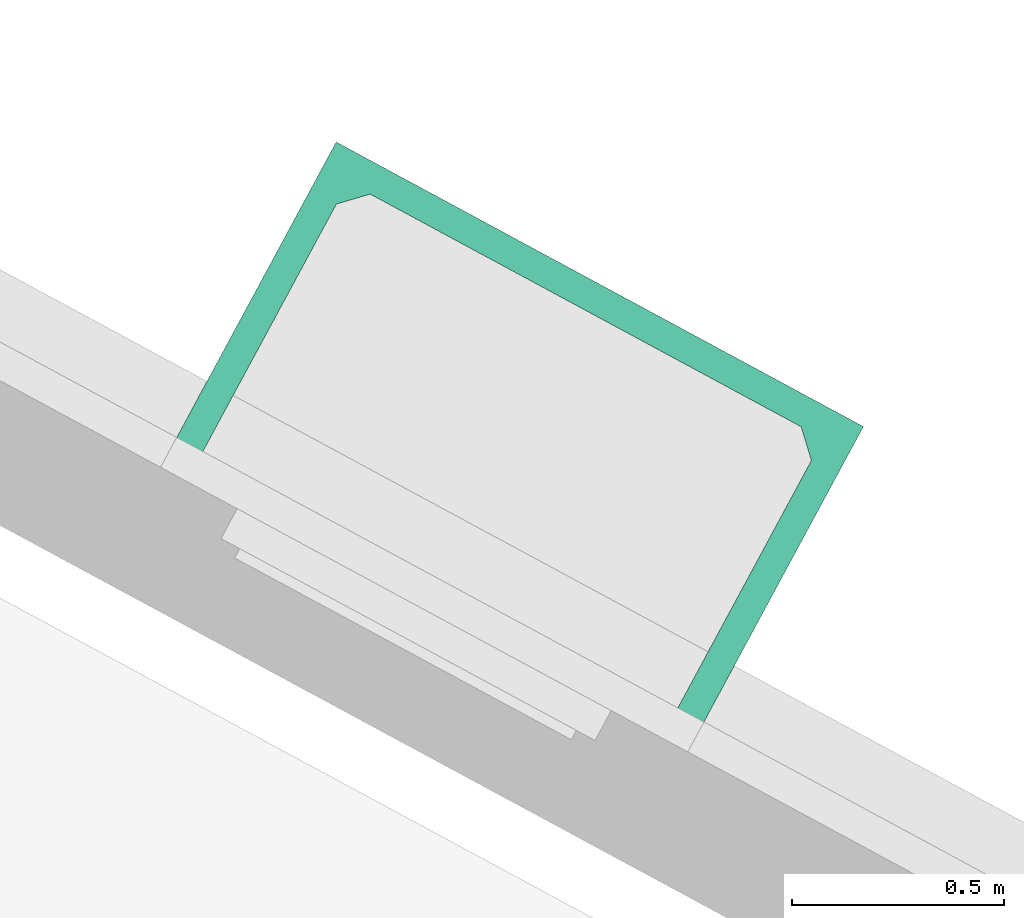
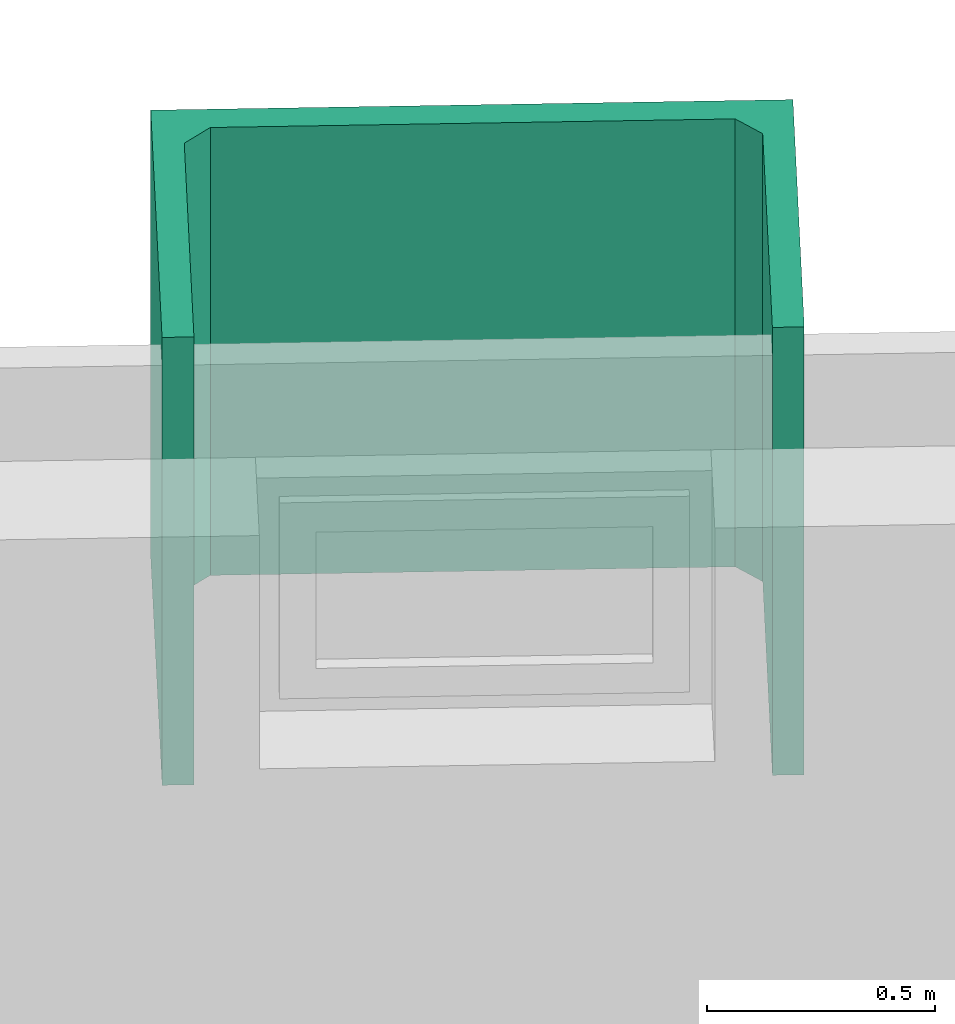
# One storey, part 6 of 7: 1 distribution element.
"""IFC2X3 building model written with IfcOpenShell, lengths in metres."""

import ifcopenshell
import ifcopenshell.guid

model = None  # the IFC model being written
_history = None  # IfcOwnerHistory: only IFC2X3 demands one
_inside = {}  # id of a spatial element -> (the spatial element, [elements in it])
_under = {}  # id of a project, library or spatial element -> (it, [spatial elements below it])
_declared = {}  # id of a project -> (the project, [libraries it declares])
_typed = {}  # id of a type object -> (the type object, [elements of that type])
_made_of = {}  # id of a material, layer set ... -> (it, [elements and type objects made of it])


def new_model(schema):
    """Start an empty IFC model of exactly this schema.

    Asked for "IFC4X3", IfcOpenShell would pick the latest addendum, in which some entities
    have other attributes; the version numbers below select the first issue.
    IFC2X3 requires an IfcOwnerHistory on every rooted entity: one is made here for all.
    """
    global model, _history
    if schema == "IFC4X3":
        model = ifcopenshell.file(schema_version=(4, 3, 0, 0))
    else:
        model = ifcopenshell.file(schema=schema)
    _inside.clear()
    _under.clear()
    _declared.clear()
    _typed.clear()
    _made_of.clear()
    _history = None
    if model.schema == "IFC2X3":
        org = make("IfcOrganization", Name="unknown")
        user = make(
            "IfcPersonAndOrganization",
            ThePerson=make("IfcPerson", FamilyName="unknown"),
            TheOrganization=org,
        )
        app = make(
            "IfcApplication",
            ApplicationDeveloper=org,
            Version="unknown",
            ApplicationFullName="unknown",
            ApplicationIdentifier="unknown",
        )
        _history = make(
            "IfcOwnerHistory",
            OwningUser=user,
            OwningApplication=app,
            ChangeAction="ADDED",
            CreationDate=0,
        )
    return model


def make(cls, **values):
    """One entity of the class cls with the attributes given. An attribute that is None is left unset."""
    return model.create_entity(
        cls, **{name: value for name, value in values.items() if value is not None}
    )


def entity(cls, *values):
    """Any entity or typed value of the class cls, its attributes in the order of the schema. None: left unset."""
    e = model.create_entity(cls)
    for i, value in enumerate(values):
        if value is not None:
            e[i] = value
    return e


def rooted(cls, **values):
    """An entity with a GlobalId (a new one), such as an element, a storey or a relation."""
    return make(cls, GlobalId=ifcopenshell.guid.new(), OwnerHistory=_history, **values)


def si_unit(unit_type, name, prefix=None):
    """IfcSIUnit, for example si_unit("LENGTHUNIT", "METRE", prefix="MILLI")."""
    return make("IfcSIUnit", UnitType=unit_type, Prefix=prefix, Name=name)


def converted_unit(unit_type, name, factor, base, dimensions=None, offset=None):
    """IfcConversionBasedUnit, such as the inch: factor (a typed value) times the base unit."""
    return make(
        "IfcConversionBasedUnit"
        if offset is None
        else "IfcConversionBasedUnitWithOffset",
        ConversionOffset=offset,
        Dimensions=None
        if dimensions is None
        else entity("IfcDimensionalExponents", *dimensions),
        UnitType=unit_type,
        Name=name,
        ConversionFactor=make(
            "IfcMeasureWithUnit", ValueComponent=factor, UnitComponent=base
        ),
    )


def derived_unit(unit_type, elements):
    """IfcDerivedUnit: a product of units, each with its exponent."""
    return make(
        "IfcDerivedUnit",
        Elements=[
            make("IfcDerivedUnitElement", Unit=unit, Exponent=power)
            for unit, power in elements
        ],
        UnitType=unit_type,
    )


def money_unit(currency):
    """IfcMonetaryUnit."""
    return make("IfcMonetaryUnit", Currency=currency)


def assignment(units):
    """IfcUnitAssignment: the units of a project."""
    return None if units is None else make("IfcUnitAssignment", Units=units)


def point(xyz):
    """IfcCartesianPoint."""
    return None if xyz is None else make("IfcCartesianPoint", Coordinates=xyz)


def direction(xyz):
    """IfcDirection."""
    return None if xyz is None else make("IfcDirection", DirectionRatios=xyz)


def frame(location, z_axis=None, x_axis=None):
    """IfcAxis2Placement3D, a coordinate frame: its origin and axes. An axis left out is left unset."""
    return make(
        "IfcAxis2Placement3D",
        Location=point(location),
        Axis=direction(z_axis),
        RefDirection=direction(x_axis),
    )


def origin_with_axes():
    """The frame at (0, 0, 0) with the z axis (0, 0, 1) and the x axis (1, 0, 0) written out."""
    return frame((0.0, 0.0, 0.0), z_axis=(0.0, 0.0, 1.0), x_axis=(1.0, 0.0, 0.0))


def place(relative_to, where):
    """IfcLocalPlacement: puts the frame where relative to a parent placement (None: the world)."""
    return make(
        "IfcLocalPlacement", PlacementRelTo=relative_to, RelativePlacement=where
    )


def context(
    kind, dimensions, precision=None, world=None, true_north=None, identifier=None
):
    """IfcGeometricRepresentationContext, for example the 3D "Model" context."""
    return make(
        "IfcGeometricRepresentationContext",
        ContextIdentifier=identifier,
        ContextType=kind,
        CoordinateSpaceDimension=dimensions,
        Precision=precision,
        WorldCoordinateSystem=world,
        TrueNorth=true_north,
    )


def subcontext(parent, identifier, kind, view, scale=None):
    """IfcGeometricRepresentationSubContext, for example "Body" below "Model"."""
    return make(
        "IfcGeometricRepresentationSubContext",
        ContextIdentifier=identifier,
        ContextType=kind,
        ParentContext=parent,
        TargetScale=scale,
        TargetView=view,
    )


def project(units=None, contexts=None):
    """IfcProject with its units and contexts."""
    return rooted(
        "IfcProject",
        Name="project",
        RepresentationContexts=contexts,
        UnitsInContext=assignment(units),
    )


def spatial(cls, under=None, at=None, **own):
    """A site, building, storey or space (cls), placed at a placement, below another one or the project."""
    s = rooted(cls, ObjectPlacement=at, **own)
    if under is not None:
        _under.setdefault(under.id(), (under, []))[1].append(s)
    return s


def faces_of(points, faces, orient=None, outer=None):
    """IfcFace entities. A face is a list of loops; a loop is a list of indices into points, from 0.

    orient and outer hold one flag for each loop. By default every Orientation is true, the
    first loop of a face is its IfcFaceOuterBound and the others are IfcFaceBound.
    """
    made = []
    for i, loops in enumerate(faces):
        bounds = []
        for j, loop in enumerate(loops):
            is_outer = j == 0 if outer is None else outer[i][j]
            bounds.append(
                make(
                    "IfcFaceOuterBound" if is_outer else "IfcFaceBound",
                    Bound=make("IfcPolyLoop", Polygon=[points[k] for k in loop]),
                    Orientation=True if orient is None else orient[i][j],
                )
            )
        made.append(make("IfcFace", Bounds=bounds))
    return made


def faceted_brep(points, faces, orient=None, outer=None, voids=None):
    """IfcFacetedBrep: a solid bounded by flat faces; with voids (closed shells), ...WithVoids."""
    shared = [point(p) for p in points]
    hull = make("IfcClosedShell", CfsFaces=faces_of(shared, faces, orient, outer))
    if voids is None:
        return make("IfcFacetedBrep", Outer=hull)
    return make(
        "IfcFacetedBrepWithVoids",
        Outer=hull,
        Voids=[
            make(cls, CfsFaces=faces_of(shared, fs, o, b)) for cls, fs, o, b in voids
        ],
    )


def shape(context_of_items, identifier, shape_type, items):
    """IfcShapeRepresentation: the items that make up one representation, for example the "Body"."""
    return make(
        "IfcShapeRepresentation",
        ContextOfItems=context_of_items,
        RepresentationIdentifier=identifier,
        RepresentationType=shape_type,
        Items=items,
    )


def material(Name=None, Category=None):
    """IfcMaterial."""
    return make("IfcMaterial", Name=Name, Category=Category)


def material_list(materials):
    """IfcMaterialList."""
    return make("IfcMaterialList", Materials=materials)


def made_of(thing, what):
    """Note that an element or type object is made of a material, layer set ...; save() writes the relation."""
    if what is not None:
        _made_of.setdefault(what.id(), (what, []))[1].append(thing)
    return thing


def type_object(cls, material=None, **own):
    """A type object (cls), such as IfcWallType, which elements share."""
    return made_of(rooted(cls, **own), material)


def element(
    cls,
    number,
    at=None,
    inside=None,
    cuts=None,
    type_object=None,
    material=None,
    context=None,
    identifier="Body",
    shape_type=None,
    held_by="IfcProductDefinitionShape",
    body=None,
    shapes=None,
    **own,
):
    """One element of the class cls, such as IfcWall. Its Tag is "e" and its number.

    at: its placement. inside: the storey or other place that contains it. cuts: it is an
    opening in that element (IfcRelVoidsElement). A single representation is given by context,
    identifier, shape_type and body (its items); several are given by shapes. held_by: the class
    of the entity that holds the representations. save() writes the other relations.
    """
    e = rooted(cls, Tag="e%d" % number, ObjectPlacement=at, **own)
    if body is not None:
        shapes = [shape(context, identifier, shape_type, body)]
    if shapes is not None:
        e.Representation = make(held_by, Representations=shapes)
    if inside is not None:
        _inside.setdefault(inside.id(), (inside, []))[1].append(e)
    if cuts is not None:
        rooted(
            "IfcRelVoidsElement", RelatingBuildingElement=cuts, RelatedOpeningElement=e
        )
    if type_object is not None:
        _typed.setdefault(type_object.id(), (type_object, []))[1].append(e)
    return made_of(e, material)


def aggregate(whole, parts):
    """IfcRelAggregates: a whole, such as a stair, and the parts it consists of."""
    return rooted("IfcRelAggregates", RelatingObject=whole, RelatedObjects=parts)


def save(model, path):
    """Write the relations noted so far, then the file.

    IfcRelAggregates (storeys below a building ...), IfcRelContainedInSpatialStructure (elements
    in a storey), IfcRelDefinesByType, IfcRelAssociatesMaterial and IfcRelDeclares: one each for
    every whole, place, type object, material and project.
    """
    for whole, parts in _under.values():
        aggregate(whole, parts)
    for where, things in _inside.values():
        rooted(
            "IfcRelContainedInSpatialStructure",
            RelatedElements=things,
            RelatingStructure=where,
        )
    for kind, things in _typed.values():
        rooted("IfcRelDefinesByType", RelatedObjects=things, RelatingType=kind)
    for what, things in _made_of.values():
        rooted("IfcRelAssociatesMaterial", RelatedObjects=things, RelatingMaterial=what)
    for by, libraries in _declared.values():
        rooted("IfcRelDeclares", RelatingContext=by, RelatedDefinitions=libraries)
    model.write(path)


model = new_model("IFC2X3")

# Units and contexts
model_context = context("Model", 3, precision=1e-05, world=origin_with_axes(), true_north=direction((0.0, 1.0)))
body_context = subcontext(model_context, "Body", "Model", "MODEL_VIEW")
ifc_project = project(units=[si_unit("LENGTHUNIT", "METRE"), si_unit("AREAUNIT", "SQUARE_METRE"), si_unit("VOLUMEUNIT", "CUBIC_METRE"), converted_unit("PLANEANGLEUNIT", "DEGREE", entity("IfcPlaneAngleMeasure", 0.0174532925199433), si_unit("PLANEANGLEUNIT", "RADIAN"), dimensions=[0, 0, 0, 0, 0, 0, 0]), money_unit("EUR"), converted_unit("TIMEUNIT", "Year", entity("IfcTimeMeasure", 31556926.0), si_unit("TIMEUNIT", "SECOND"), dimensions=[0, 0, 1, 0, 0, 0, 0]), si_unit("MASSUNIT", "GRAM", prefix="KILO"), si_unit("THERMODYNAMICTEMPERATUREUNIT", "DEGREE_CELSIUS"), si_unit("LUMINOUSINTENSITYUNIT", "LUMEN"), si_unit("ENERGYUNIT", "JOULE", prefix="MEGA"), derived_unit("THERMALCONDUCTANCEUNIT", [(si_unit("POWERUNIT", "WATT"), 1), (si_unit("LENGTHUNIT", "METRE"), -1), (si_unit("THERMODYNAMICTEMPERATUREUNIT", "KELVIN"), -1)]), derived_unit("SPECIFICHEATCAPACITYUNIT", [(si_unit("ENERGYUNIT", "JOULE"), 1), (si_unit("MASSUNIT", "GRAM", prefix="KILO"), -1), (si_unit("THERMODYNAMICTEMPERATUREUNIT", "KELVIN"), -1)]), derived_unit("MASSDENSITYUNIT", [(si_unit("MASSUNIT", "GRAM", prefix="KILO"), 1), (si_unit("VOLUMEUNIT", "CUBIC_METRE"), -1)])], contexts=[model_context])

# Site, building, storey
site_placement = place(None, frame((-3.949935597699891, 1.740105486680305, 0.0), z_axis=(0.0, 0.0, 1.0), x_axis=(0.8799804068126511, -0.475009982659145, 0.0)))
site = spatial("IfcSite", under=ifc_project, at=site_placement, Name="Gelände", CompositionType="ELEMENT")
building_placement = place(site_placement, origin_with_axes())
building = spatial("IfcBuilding", under=site, at=building_placement, Name="Gebäude", CompositionType="ELEMENT")
storey_placement = place(building_placement, frame((0.0, 0.0, -2.98), z_axis=(0.0, 0.0, 1.0), x_axis=(1.0, 0.0, 0.0)))
storey = spatial("IfcBuildingStorey", under=building, at=storey_placement, Name="Kellergeschoss", CompositionType="ELEMENT", Elevation=-2.98)

# Distribution element
ifc_material_1 = material(Name="_SIWH - Beton, Stahlbeton Fertigteil")
ifc_material_2 = material(Name="_SIWH - Dämmung, hart Mineralwolle")
ifc_material_list = material_list([ifc_material_1, ifc_material_2, ifc_material_2])
distribution_element_type = type_object("IfcDistributionElementType", Name="_SIWH - Lichtschacht 1270x800 870 x 1410")
distribution_element_placement = place(storey_placement, frame((14.52247696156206, 19.20031485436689, 1.675), z_axis=(0.0, 0.0, 1.0), x_axis=(0.0, 1.0, 0.0)))
element("IfcDistributionElement", 1, at=distribution_element_placement, inside=storey, type_object=distribution_element_type, material=ifc_material_list, Name="Stütze-004", context=body_context, shape_type="Brep", body=[
    faceted_brep([(0.7416479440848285, 0.07000000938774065, 1.2), (0.7416479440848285, 0.07000000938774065, 0.0), (0.07999998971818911, 0.06999998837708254, 0.0), (0.07999998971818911, 0.06999998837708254, 1.2), (0.7998915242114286, 0.1287539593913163, 1.2), (0.7998915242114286, 0.1287539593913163, 0.0), (0.7998915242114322, 1.281246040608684, 0.0), (0.741647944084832, 1.339999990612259, 0.0), (0.07999998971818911, 1.339999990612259, 0.0), (0.07999998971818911, 1.41, 0.0), (0.8699999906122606, 1.41, 0.0), (0.8699999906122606, 0.0, 0.0), (0.07999998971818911, 0.0, 0.0), (0.07999998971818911, 0.0, 1.2), (0.8699999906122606, 0.0, 1.2), (0.8699999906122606, 1.41, 1.2), (0.07999998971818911, 1.41, 1.2), (0.07999998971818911, 1.339999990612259, 1.2), (0.741647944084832, 1.339999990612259, 1.2), (0.7998915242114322, 1.281246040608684, 1.2)], [[[0, 1, 2, 3]], [[4, 5, 1, 0]], [[2, 1, 5, 6, 7, 8, 9, 10, 11, 12]], [[3, 2, 12, 13]], [[4, 0, 3, 13, 14, 15, 16, 17, 18, 19]], [[19, 6, 5, 4]], [[18, 7, 6, 19]], [[17, 8, 7, 18]], [[16, 9, 8, 17]], [[15, 10, 9, 16]], [[14, 11, 10, 15]], [[13, 12, 11, 14]]]),
    faceted_brep([(0.0, 1.41, 0.0), (0.0, 1.34, 0.0), (0.0, 1.34, 1.2), (0.0, 1.41, 1.2), (0.08000000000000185, 1.41, 0.0), (0.08000000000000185, 1.34, 0.0), (0.08000000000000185, 1.34, 1.2), (0.08000000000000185, 1.41, 1.2)], [[[0, 1, 2, 3]], [[0, 4, 5, 1]], [[1, 5, 6, 2]], [[3, 2, 6, 7]], [[4, 0, 3, 7]], [[5, 4, 7, 6]]]),
    faceted_brep([(0.0, 0.07000000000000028, 0.0), (0.0, 0.0, 0.0), (0.0, 0.0, 1.2), (0.0, 0.07000000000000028, 1.2), (0.08000000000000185, 0.07000000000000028, 0.0), (0.0799999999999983, 0.0, 0.0), (0.0799999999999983, 0.0, 1.2), (0.08000000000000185, 0.07000000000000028, 1.2)], [[[0, 1, 2, 3]], [[0, 4, 5, 1]], [[1, 5, 6, 2]], [[3, 2, 6, 7]], [[4, 0, 3, 7]], [[5, 4, 7, 6]]]),
])

save(model, "model.ifc")
